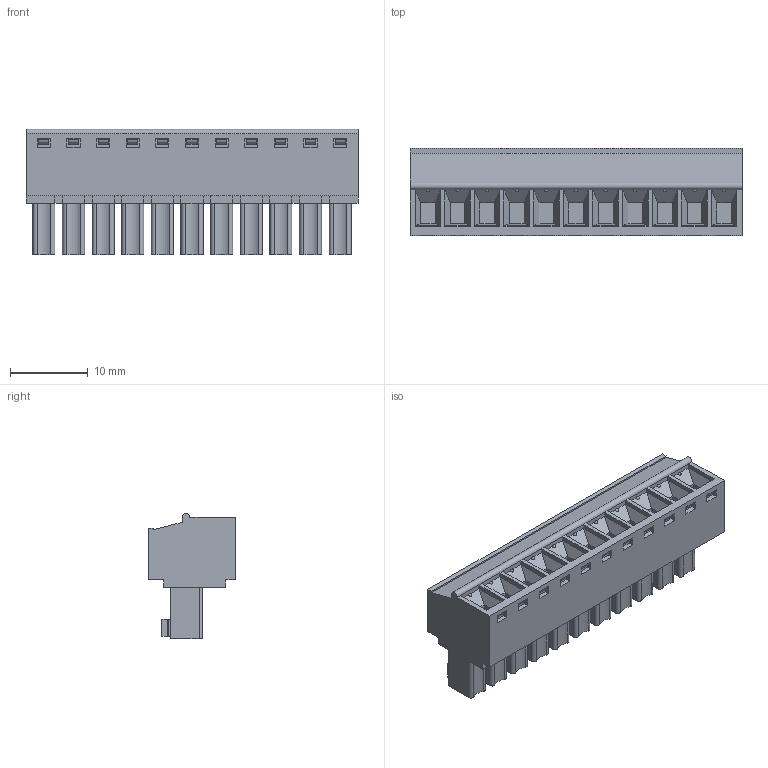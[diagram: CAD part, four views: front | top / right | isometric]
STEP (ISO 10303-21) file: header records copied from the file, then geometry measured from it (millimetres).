
FILE_DESCRIPTION(('FreeCAD Model'),'2;1');
FILE_NAME('Open CASCADE Shape Model','2023-05-24T15:40:05',('Author'),( ''),'Open CASCADE STEP processor 7.6','FreeCAD','Unknown');
FILE_SCHEMA(('AUTOMOTIVE_DESIGN { 1 0 10303 214 1 1 1 1 }'));
Products named in the file (1): BR7F2-11
Bounding box: 42.7 x 11.2 x 16.1 mm (x, y, z)
Volume: 4242 mm3; surface area: 4051.6 mm2
Topology: 1 solids, 1 shells, 981 faces, 2378 edges, 1476 vertices
Faces by surface type: plane 584, cylinder 221, cone 110, torus 44, sphere 22
Entity records: 63935 total; most frequent: CARTESIAN_POINT 15685, DIRECTION 9249, LINE 5597, VECTOR 5597, ORIENTED_EDGE 4712, PCURVE 4712, DEFINITIONAL_REPRESENTATION 4712, EDGE_CURVE 2356
